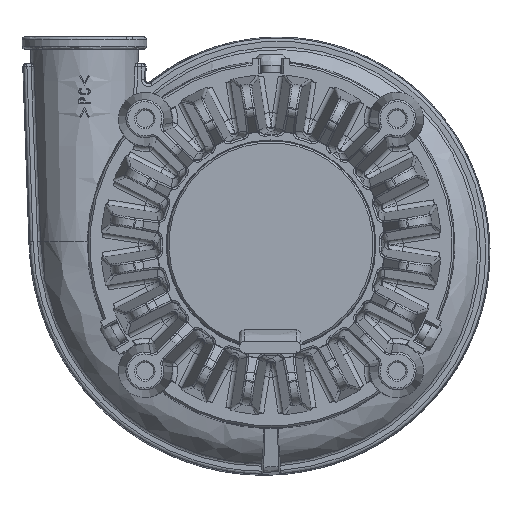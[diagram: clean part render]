
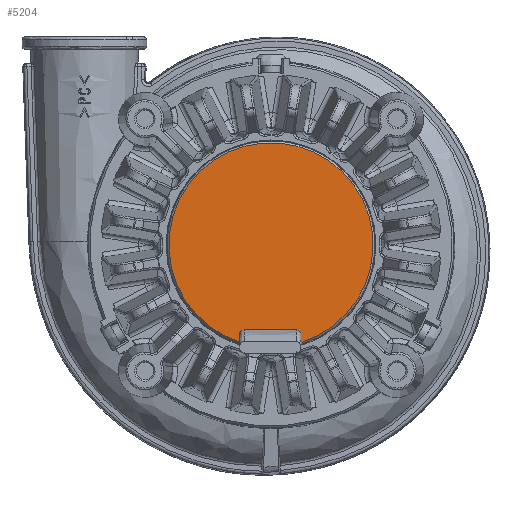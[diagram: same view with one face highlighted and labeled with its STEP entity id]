
A CAD part, front view. The second image highlights one B-rep face of the part: STEP entity #5204.
In plain terms, the highlighted planar face has unit normal (0, -1, 0).
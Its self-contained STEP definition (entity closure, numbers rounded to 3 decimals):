
#537=PLANE('',#26718);
#1675=FACE_BOUND('',#8487,.T.);
#1676=FACE_BOUND('',#8488,.T.);
#1897=LINE('',#32827,#3124);
#1899=LINE('',#32940,#3127);
#2104=LINE('',#51538,#3333);
#2105=LINE('',#51540,#3334);
#3124=VECTOR('',#27708,1.);
#3127=VECTOR('',#27713,1.);
#3333=VECTOR('',#29726,1.);
#3334=VECTOR('',#29729,1.);
#5204=ADVANCED_FACE('',(#1675,#1676),#537,.T.);
#8487=EDGE_LOOP('',(#13633,#13634,#13635,#13636));
#8488=EDGE_LOOP('',(#13637,#13638,#13639,#13640));
#9259=CIRCLE('',#25820,0.75);
#9260=CIRCLE('',#25821,0.75);
#9692=CIRCLE('',#26707,16.5);
#9694=CIRCLE('',#26714,16.2);
#13633=ORIENTED_EDGE('',*,*,#20087,.T.);
#13634=ORIENTED_EDGE('',*,*,#20091,.T.);
#13635=ORIENTED_EDGE('',*,*,#20094,.T.);
#13636=ORIENTED_EDGE('',*,*,#20096,.T.);
#13637=ORIENTED_EDGE('',*,*,#22022,.T.);
#13638=ORIENTED_EDGE('',*,*,#22025,.F.);
#13639=ORIENTED_EDGE('',*,*,#22019,.F.);
#13640=ORIENTED_EDGE('',*,*,#22024,.F.);
#17679=VERTEX_POINT('',#32761);
#17680=VERTEX_POINT('',#32763);
#17682=VERTEX_POINT('',#32826);
#17684=VERTEX_POINT('',#32882);
#18802=VERTEX_POINT('',#51523);
#18803=VERTEX_POINT('',#51525);
#18804=VERTEX_POINT('',#51533);
#18805=VERTEX_POINT('',#51535);
#20087=EDGE_CURVE('',#17680,#17679,#9259,.T.);
#20091=EDGE_CURVE('',#17679,#17682,#1897,.T.);
#20094=EDGE_CURVE('',#17682,#17684,#9260,.T.);
#20096=EDGE_CURVE('',#17684,#17680,#1899,.T.);
#22019=EDGE_CURVE('',#18802,#18803,#9692,.T.);
#22022=EDGE_CURVE('',#18805,#18804,#9694,.T.);
#22024=EDGE_CURVE('',#18805,#18802,#2104,.T.);
#22025=EDGE_CURVE('',#18803,#18804,#2105,.T.);
#25820=AXIS2_PLACEMENT_3D('',#32762,#27705,#27706);
#25821=AXIS2_PLACEMENT_3D('',#32883,#27710,#27711);
#26707=AXIS2_PLACEMENT_3D('',#51524,#29705,#29706);
#26714=AXIS2_PLACEMENT_3D('',#51534,#29720,#29721);
#26718=AXIS2_PLACEMENT_3D('',#51541,#29730,#29731);
#27705=DIRECTION('',(0.,1.,0.));
#27706=DIRECTION('',(0.,0.,-1.));
#27708=DIRECTION('',(-1.,0.,0.));
#27710=DIRECTION('',(0.,1.,0.));
#27711=DIRECTION('',(0.,0.,1.));
#27713=DIRECTION('',(1.,0.,0.));
#29705=DIRECTION('',(0.,1.,0.));
#29706=DIRECTION('',(0.,0.,-1.));
#29720=DIRECTION('',(0.,-1.,0.));
#29721=DIRECTION('',(0.,0.,1.));
#29726=DIRECTION('',(0.,0.,-1.));
#29729=DIRECTION('',(0.,0.,1.));
#29730=DIRECTION('',(0.,-1.,0.));
#29731=DIRECTION('',(0.,0.,1.));
#32761=CARTESIAN_POINT('',(4.,-27.559,-14.992));
#32762=CARTESIAN_POINT('',(4.,-27.559,-14.242));
#32763=CARTESIAN_POINT('',(4.,-27.559,-13.492));
#32826=CARTESIAN_POINT('',(-4.25,-27.559,-14.992));
#32827=CARTESIAN_POINT('',(-0.125,-27.559,-14.992));
#32882=CARTESIAN_POINT('',(-4.25,-27.559,-13.492));
#32883=CARTESIAN_POINT('',(-4.25,-27.559,-14.242));
#32940=CARTESIAN_POINT('',(-0.125,-27.559,-13.492));
#51523=CARTESIAN_POINT('',(5.,-27.559,-15.728));
#51524=CARTESIAN_POINT('',(0.,-27.559,-0.004));
#51525=CARTESIAN_POINT('',(-5.,-27.559,-15.728));
#51533=CARTESIAN_POINT('',(-5.,-27.559,-15.413));
#51534=CARTESIAN_POINT('',(0.,-27.559,-0.004));
#51535=CARTESIAN_POINT('',(5.,-27.559,-15.413));
#51538=CARTESIAN_POINT('',(5.,-27.559,-13.004));
#51540=CARTESIAN_POINT('',(-5.,-27.559,-15.728));
#51541=CARTESIAN_POINT('',(0.,-27.559,-16.504));
